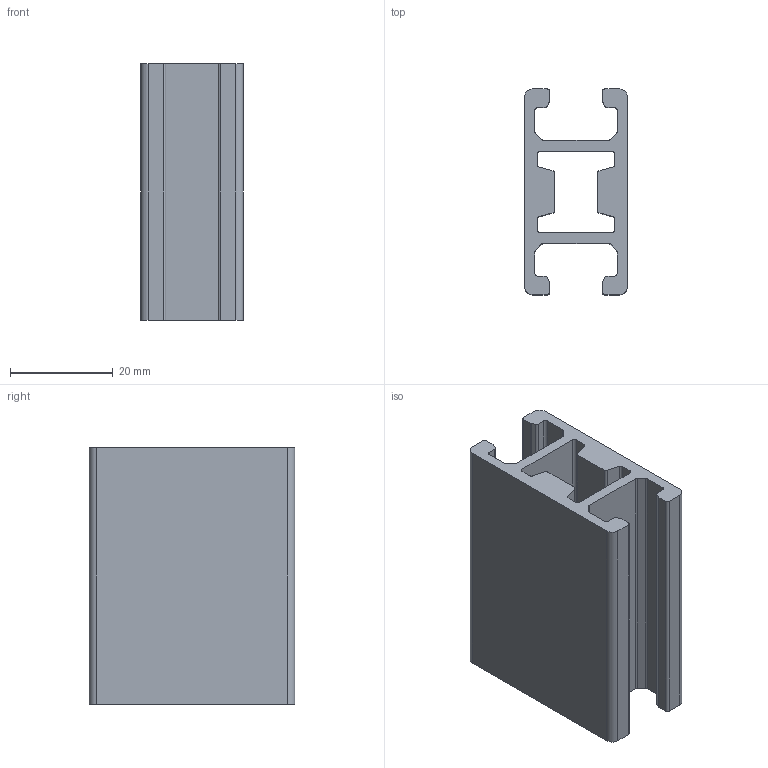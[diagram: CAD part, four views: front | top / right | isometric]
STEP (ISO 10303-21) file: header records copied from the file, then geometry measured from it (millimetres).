
FILE_DESCRIPTION(('STEP AP214'),'1');
FILE_NAME('F24M-.stp','2017-07-14T07:48:19',(' '),(' '),'Spatial InterOp 3D',' ',' ');
FILE_SCHEMA(('automotive_design'));
Length unit declared in the file: millimetre
Products named in the file (1): F24M-
Bounding box: 20 x 40 x 50 mm (x, y, z)
Volume: 17333.6 mm3; surface area: 12862.7 mm2
Topology: 1 solids, 1 shells, 82 faces, 240 edges, 160 vertices
Faces by surface type: plane 42, cylinder 40
Entity records: 3420 total; most frequent: DIRECTION 486, CARTESIAN_POINT 483, ORIENTED_EDGE 480, EDGE_CURVE 240, AXIS2_PLACEMENT_3D 163, VERTEX_POINT 160, LINE 160, VECTOR 160
